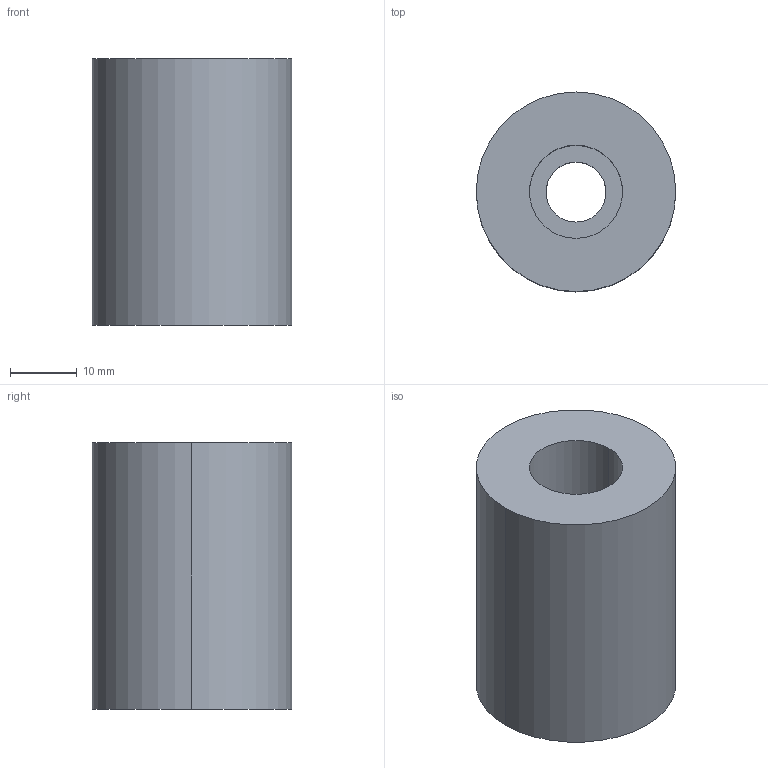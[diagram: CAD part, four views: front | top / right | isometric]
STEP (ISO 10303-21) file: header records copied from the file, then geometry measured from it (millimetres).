
FILE_DESCRIPTION(/* description */ (''),/* implementation_level */ '2;1');
FILE_NAME(/* name */ '3d_azn30-40_03255_r00.stp',/* time_stamp */ '2011-01-10T14:17:33+09:00',/* author */ ('MISUMI'),/* organization */ (''),/* preprocessor_version */ 'ST-DEVELOPER v11',/* originating_system */ 'UGS - NX 5.0',/* authorisation */ '');
FILE_SCHEMA (('CONFIG_CONTROL_DESIGN'));
Length unit declared in the file: millimetre
Products named in the file (1): 3d_azn30-40_03255_r00
Bounding box: 30 x 30 x 40 mm (x, y, z)
Volume: 23020 mm3; surface area: 6658.6 mm2
Topology: 1 solids, 1 shells, 9 faces, 18 edges, 12 vertices
Faces by surface type: cylinder 6, plane 3
Entity records: 334 total; most frequent: DIRECTION 50, CARTESIAN_POINT 40, ORIENTED_EDGE 36, AXIS2_PLACEMENT_3D 22, EDGE_CURVE 18, EDGE_LOOP 12, VERTEX_POINT 12, CIRCLE 12
